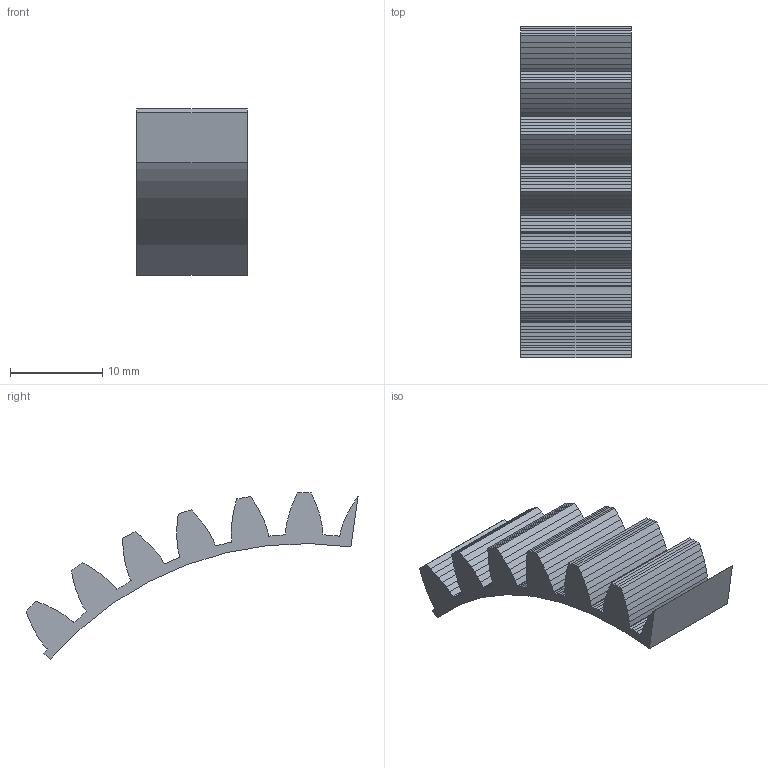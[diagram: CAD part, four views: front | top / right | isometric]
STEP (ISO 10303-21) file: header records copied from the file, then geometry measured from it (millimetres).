
FILE_DESCRIPTION(('Open CASCADE Model'),'2;1');
FILE_NAME('Open CASCADE Shape Model','2026-10-16T05:25:09',('Author'),( 'Open CASCADE'),'Open CASCADE STEP processor 7.9','Open CASCADE 7.9' ,'Unknown');
FILE_SCHEMA(('AUTOMOTIVE_DESIGN { 1 0 10303 214 1 1 1 1 }'));
Length unit declared in the file: millimetre
Products named in the file (1): Open CASCADE STEP translator 7.9 26
Bounding box: 12 x 36.08 x 18.05 mm (x, y, z)
Volume: 1503.2 mm3; surface area: 1755 mm2
Topology: 1 solids, 1 shells, 166 faces, 492 edges, 328 vertices
Faces by surface type: plane 165, cylinder 1
Entity records: 11834 total; most frequent: CARTESIAN_POINT 1999, DIRECTION 1794, LINE 1456, VECTOR 1456, ORIENTED_EDGE 984, PCURVE 984, DEFINITIONAL_REPRESENTATION 984, EDGE_CURVE 492
